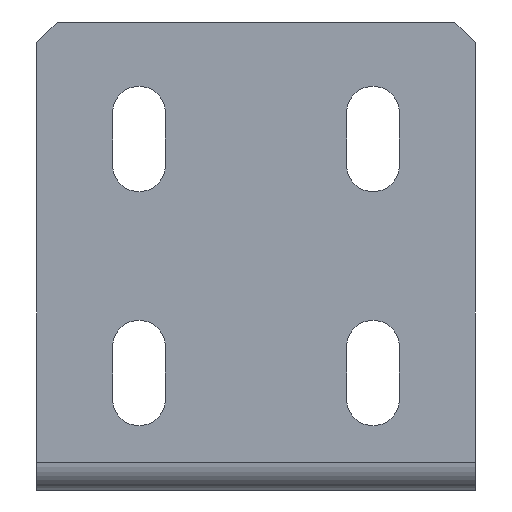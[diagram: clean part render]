
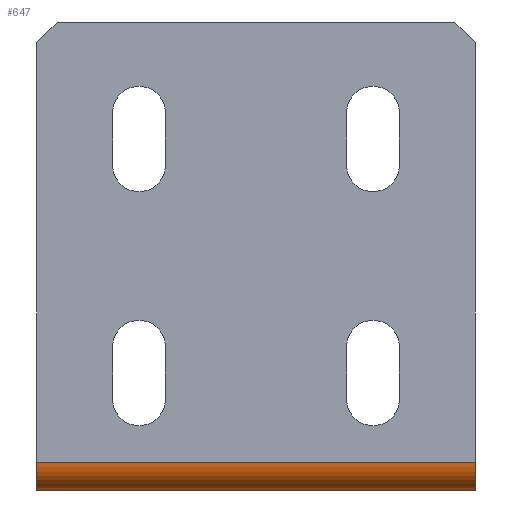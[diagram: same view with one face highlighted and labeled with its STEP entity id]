
A CAD part, front view. The second image highlights one B-rep face of the part: STEP entity #647.
In plain terms, the highlighted cylindrical face has radius 4.737 mm (diameter 9.473 mm), a partial arc.
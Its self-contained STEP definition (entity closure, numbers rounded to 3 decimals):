
#24 = ORIENTED_EDGE ( 'NONE', *, *, #288, .F. ) ;
#102 = DIRECTION ( 'NONE',  ( 0., 0., 1. ) ) ;
#113 = CARTESIAN_POINT ( 'NONE',  ( 37.5, 4.737, 0. ) ) ;
#219 = ORIENTED_EDGE ( 'NONE', *, *, #1055, .T. ) ;
#288 = EDGE_CURVE ( 'NONE', #1351, #534, #1309, .T. ) ;
#363 = VERTEX_POINT ( 'NONE', #1722 ) ;
#372 = AXIS2_PLACEMENT_3D ( 'NONE', #508, #1324, #930 ) ;
#477 = DIRECTION ( 'NONE',  ( -1., 0., 0. ) ) ;
#496 = FACE_OUTER_BOUND ( 'NONE', #1149, .T. ) ;
#508 = CARTESIAN_POINT ( 'NONE',  ( -37.5, 4.737, 4.737 ) ) ;
#514 = CARTESIAN_POINT ( 'NONE',  ( -37.5, 4.737, 0. ) ) ;
#534 = VERTEX_POINT ( 'NONE', #514 ) ;
#564 = EDGE_CURVE ( 'NONE', #1351, #363, #1070, .T. ) ;
#647 = ADVANCED_FACE ( 'NONE', ( #496 ), #1727, .T. ) ;
#693 = VECTOR ( 'NONE', #1570, 1000. ) ;
#716 = AXIS2_PLACEMENT_3D ( 'NONE', #1277, #1441, #1352 ) ;
#734 = CARTESIAN_POINT ( 'NONE',  ( -37.5, 0., 4.737 ) ) ;
#743 = ORIENTED_EDGE ( 'NONE', *, *, #564, .T. ) ;
#782 = EDGE_CURVE ( 'NONE', #534, #1692, #1756, .T. ) ;
#930 = DIRECTION ( 'NONE',  ( 0., 0., -1. ) ) ;
#995 = VECTOR ( 'NONE', #1244, 1000. ) ;
#1047 = CARTESIAN_POINT ( 'NONE',  ( 37.5, 4.737, 0. ) ) ;
#1055 = EDGE_CURVE ( 'NONE', #363, #1692, #1506, .T. ) ;
#1070 = CIRCLE ( 'NONE', #716, 4.737 ) ;
#1130 = AXIS2_PLACEMENT_3D ( 'NONE', #1383, #477, #102 ) ;
#1149 = EDGE_LOOP ( 'NONE', ( #1357, #24, #743, #219 ) ) ;
#1244 = DIRECTION ( 'NONE',  ( -1., 0., 0. ) ) ;
#1277 = CARTESIAN_POINT ( 'NONE',  ( 37.5, 4.737, 4.737 ) ) ;
#1298 = CARTESIAN_POINT ( 'NONE',  ( 37.5, 0., 4.737 ) ) ;
#1309 = LINE ( 'NONE', #113, #995 ) ;
#1324 = DIRECTION ( 'NONE',  ( -1., 0., 0. ) ) ;
#1351 = VERTEX_POINT ( 'NONE', #1047 ) ;
#1352 = DIRECTION ( 'NONE',  ( 0., 0., -1. ) ) ;
#1357 = ORIENTED_EDGE ( 'NONE', *, *, #782, .F. ) ;
#1383 = CARTESIAN_POINT ( 'NONE',  ( 37.5, 4.737, 4.737 ) ) ;
#1441 = DIRECTION ( 'NONE',  ( -1., 0., 0. ) ) ;
#1506 = LINE ( 'NONE', #1298, #693 ) ;
#1570 = DIRECTION ( 'NONE',  ( -1., 0., 0. ) ) ;
#1692 = VERTEX_POINT ( 'NONE', #734 ) ;
#1722 = CARTESIAN_POINT ( 'NONE',  ( 37.5, 0., 4.737 ) ) ;
#1727 = CYLINDRICAL_SURFACE ( 'NONE', #1130, 4.737 ) ;
#1756 = CIRCLE ( 'NONE', #372, 4.737 ) ;
